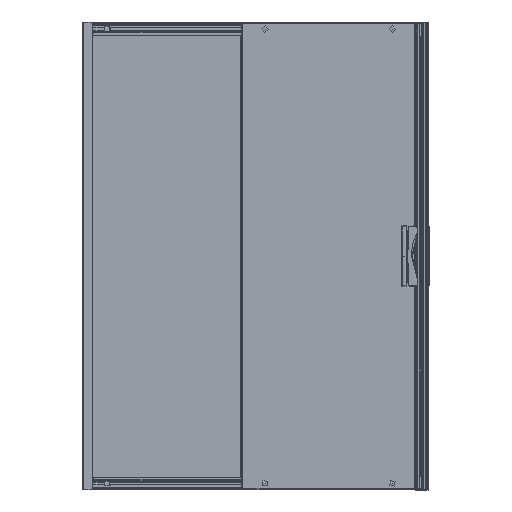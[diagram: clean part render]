
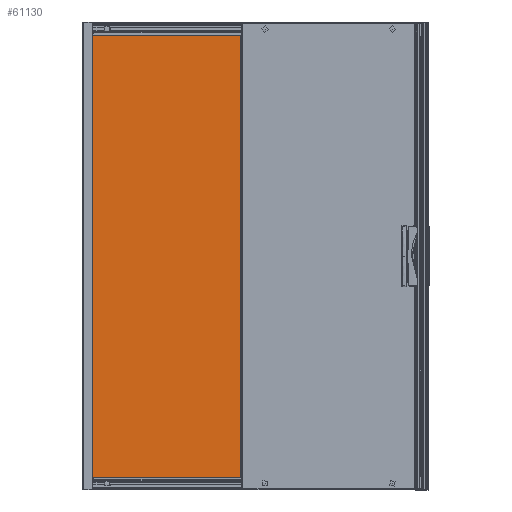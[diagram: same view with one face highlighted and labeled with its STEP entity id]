
A CAD part, left-side view. The second image highlights one B-rep face of the part: STEP entity #61130.
In plain terms, the highlighted planar face has unit normal (-1, 0, 0).
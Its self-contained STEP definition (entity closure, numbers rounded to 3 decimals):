
#2682=LINE($,#99196,#8048);
#2740=LINE($,#99365,#8106);
#2800=LINE($,#99737,#8166);
#2829=LINE($,#99850,#8195);
#2849=LINE($,#99919,#8215);
#2877=LINE($,#100030,#8243);
#2972=LINE($,#100700,#8338);
#2985=LINE($,#100757,#8351);
#3027=LINE($,#100877,#8393);
#3030=LINE($,#100882,#8396);
#3036=LINE($,#100894,#8402);
#3967=LINE($,#104164,#9333);
#3968=LINE($,#104166,#9334);
#3969=LINE($,#104167,#9335);
#8048=VECTOR($,#73057,0.727);
#8106=VECTOR($,#73173,1.024);
#8166=VECTOR($,#73361,2.557);
#8195=VECTOR($,#73422,2.933);
#8215=VECTOR($,#73454,1.111);
#8243=VECTOR($,#73500,0.727);
#8338=VECTOR($,#73769,2.557);
#8351=VECTOR($,#73804,2.933);
#8393=VECTOR($,#73890,1882.);
#8396=VECTOR($,#73897,1882.);
#8402=VECTOR($,#73915,1882.);
#9333=VECTOR($,#76594,645.);
#9334=VECTOR($,#76595,1891.453);
#9335=VECTOR($,#76596,645.);
#12917=PLANE($,#65766);
#15222=FACE_BOUND($,#20356,.T.);
#15223=FACE_BOUND($,#20357,.T.);
#20356=EDGE_LOOP($,(#46684,#46685,#46686,#46687));
#20357=EDGE_LOOP($,(#46688,#46689,#46690,#46691,#46692,#46693,#46694,#46695,
#46696,#46697));
#26342=VERTEX_POINT($,#99194);
#26343=VERTEX_POINT($,#99195);
#26388=VERTEX_POINT($,#99352);
#26391=VERTEX_POINT($,#99362);
#26449=VERTEX_POINT($,#99734);
#26450=VERTEX_POINT($,#99736);
#26503=VERTEX_POINT($,#99917);
#26504=VERTEX_POINT($,#99918);
#26533=VERTEX_POINT($,#100027);
#26534=VERTEX_POINT($,#100029);
#26631=VERTEX_POINT($,#100697);
#26632=VERTEX_POINT($,#100699);
#27708=VERTEX_POINT($,#104163);
#27709=VERTEX_POINT($,#104165);
#32703=EDGE_CURVE($,#26342,#26343,#2682,.T.);
#32775=EDGE_CURVE($,#26388,#26391,#2740,.T.);
#32875=EDGE_CURVE($,#26450,#26449,#2800,.T.);
#32916=EDGE_CURVE($,#26343,#26388,#2829,.T.);
#32939=EDGE_CURVE($,#26503,#26504,#2849,.T.);
#32976=EDGE_CURVE($,#26533,#26534,#2877,.T.);
#33139=EDGE_CURVE($,#26632,#26631,#2972,.T.);
#33160=EDGE_CURVE($,#26504,#26533,#2985,.T.);
#33221=EDGE_CURVE($,#26449,#26632,#3027,.T.);
#33224=EDGE_CURVE($,#26631,#26450,#3030,.T.);
#33230=EDGE_CURVE($,#26391,#26503,#3036,.T.);
#34671=EDGE_CURVE($,#26342,#27708,#3967,.T.);
#34672=EDGE_CURVE($,#27709,#27708,#3968,.T.);
#34673=EDGE_CURVE($,#27709,#26534,#3969,.T.);
#46684=ORIENTED_EDGE($,*,*,#33221,.T.);
#46685=ORIENTED_EDGE($,*,*,#33139,.T.);
#46686=ORIENTED_EDGE($,*,*,#33224,.T.);
#46687=ORIENTED_EDGE($,*,*,#32875,.T.);
#46688=ORIENTED_EDGE($,*,*,#34671,.T.);
#46689=ORIENTED_EDGE($,*,*,#34672,.F.);
#46690=ORIENTED_EDGE($,*,*,#34673,.T.);
#46691=ORIENTED_EDGE($,*,*,#32976,.F.);
#46692=ORIENTED_EDGE($,*,*,#33160,.F.);
#46693=ORIENTED_EDGE($,*,*,#32939,.F.);
#46694=ORIENTED_EDGE($,*,*,#33230,.F.);
#46695=ORIENTED_EDGE($,*,*,#32775,.F.);
#46696=ORIENTED_EDGE($,*,*,#32916,.F.);
#46697=ORIENTED_EDGE($,*,*,#32703,.F.);
#61130=ADVANCED_FACE($,(#15222,#15223),#12917,.F.);
#65766=AXIS2_PLACEMENT_3D($,#104162,#76592,#76593);
#73057=DIRECTION($,(0.,0.,-1.));
#73173=DIRECTION($,(0.,0.,-1.));
#73361=DIRECTION($,(0.,-1.,0.));
#73422=DIRECTION($,(0.,0.,-1.));
#73454=DIRECTION($,(0.,0.,-1.));
#73500=DIRECTION($,(0.,0.,-1.));
#73769=DIRECTION($,(0.,1.,0.));
#73804=DIRECTION($,(0.,0.,-1.));
#73890=DIRECTION($,(0.,0.,-1.));
#73897=DIRECTION($,(0.,0.,1.));
#73915=DIRECTION($,(0.,0.,-1.));
#76592=DIRECTION('center_axis',(1.,0.,0.));
#76593=DIRECTION('ref_axis',(0.,-1.,0.));
#76594=DIRECTION($,(0.,1.,0.));
#76595=DIRECTION($,(0.,0.,1.));
#76596=DIRECTION($,(0.,-1.,0.));
#99194=CARTESIAN_POINT('',(693.104,-212.159,2899.866));
#99195=CARTESIAN_POINT('',(693.104,-212.159,2899.14));
#99196=CARTESIAN_POINT($,(693.104,-212.159,2908.14));
#99352=CARTESIAN_POINT('',(693.104,-212.159,2896.207));
#99362=CARTESIAN_POINT('',(693.104,-212.159,2895.183));
#99365=CARTESIAN_POINT($,(693.104,-212.159,2908.14));
#99734=CARTESIAN_POINT('',(693.104,-209.716,2895.183));
#99736=CARTESIAN_POINT('',(693.104,-207.159,2895.183));
#99737=CARTESIAN_POINT($,(693.104,29.316,2895.183));
#99850=CARTESIAN_POINT($,(693.104,-212.159,2908.14));
#99917=CARTESIAN_POINT('',(693.104,-212.159,1013.183));
#99918=CARTESIAN_POINT('',(693.104,-212.159,1012.072));
#99919=CARTESIAN_POINT($,(693.104,-212.159,2908.14));
#100027=CARTESIAN_POINT('',(693.104,-212.159,1009.14));
#100029=CARTESIAN_POINT('',(693.104,-212.159,1008.413));
#100030=CARTESIAN_POINT($,(693.104,-212.159,2908.14));
#100697=CARTESIAN_POINT('',(693.104,-207.159,1013.183));
#100699=CARTESIAN_POINT('',(693.104,-209.716,1013.183));
#100700=CARTESIAN_POINT($,(693.104,29.316,1013.183));
#100757=CARTESIAN_POINT($,(693.104,-212.159,2908.14));
#100877=CARTESIAN_POINT($,(693.104,-209.716,1245.161));
#100882=CARTESIAN_POINT($,(693.104,-207.159,1245.161));
#100894=CARTESIAN_POINT($,(693.104,-212.159,2908.14));
#104162=CARTESIAN_POINT('Origin',(693.104,271.591,1477.14));
#104163=CARTESIAN_POINT('',(693.104,432.841,2899.866));
#104164=CARTESIAN_POINT($,(693.104,442.841,2899.866));
#104165=CARTESIAN_POINT('',(693.104,432.841,1008.413));
#104166=CARTESIAN_POINT($,(693.104,432.841,1000.14));
#104167=CARTESIAN_POINT($,(693.104,-212.159,1008.413));
